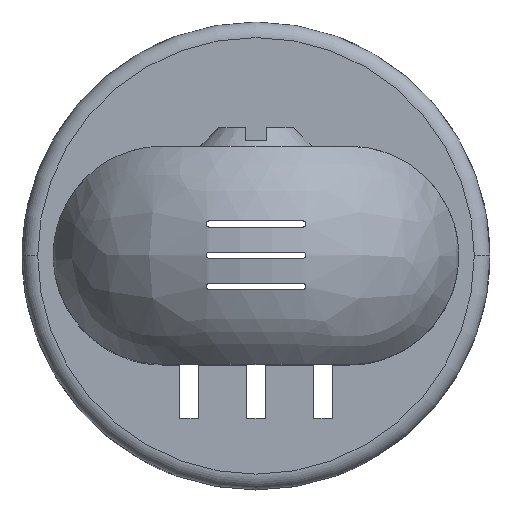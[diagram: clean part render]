
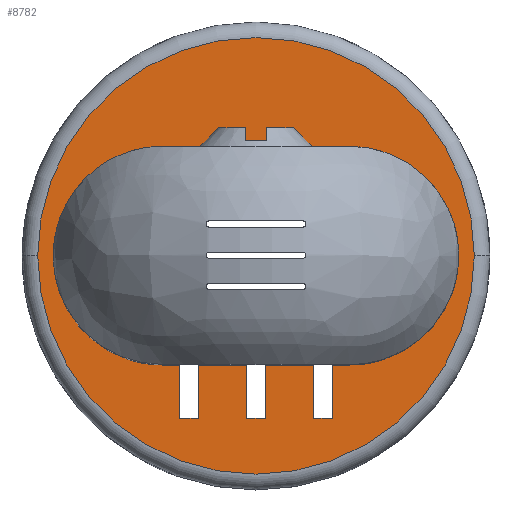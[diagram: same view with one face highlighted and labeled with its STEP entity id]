
A CAD part, top view. The second image highlights one B-rep face of the part: STEP entity #8782.
In plain terms, the highlighted planar face has unit normal (0, 0, 1).
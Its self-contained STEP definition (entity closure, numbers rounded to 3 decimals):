
#328=CARTESIAN_POINT('',(0.,0.,30.));
#329=DIRECTION('',(0.,0.,1.));
#330=DIRECTION('',(1.,0.,0.));
#331=AXIS2_PLACEMENT_3D('',#328,#329,#330);
#337=CARTESIAN_POINT('',(0.,0.,30.));
#338=DIRECTION('',(0.,0.,1.));
#339=DIRECTION('',(-1.,0.,0.));
#340=AXIS2_PLACEMENT_3D('',#337,#338,#339);
#345=CARTESIAN_POINT('',(30.,0.,30.));
#346=DIRECTION('',(0.,0.,-1.));
#347=DIRECTION('',(0.,1.,0.));
#348=AXIS2_PLACEMENT_3D('',#345,#346,#347);
#353=CARTESIAN_POINT('',(-30.,0.,30.));
#354=DIRECTION('',(0.,0.,-1.));
#355=DIRECTION('',(-1.,0.,0.));
#356=AXIS2_PLACEMENT_3D('',#353,#354,#355);
#361=CARTESIAN_POINT('',(-30.,0.,30.));
#362=DIRECTION('',(0.,0.,-1.));
#363=DIRECTION('',(0.,-1.,0.));
#364=AXIS2_PLACEMENT_3D('',#361,#362,#363);
#369=DIRECTION('',(-1.,0.,0.));
#370=VECTOR('',#369,5.5);
#371=CARTESIAN_POINT('',(-24.5,-35.,30.));
#372=LINE('',#371,#370);
#376=DIRECTION('',(0.,-1.,0.));
#377=VECTOR('',#376,17.1);
#378=CARTESIAN_POINT('',(-18.5,-35.,30.));
#379=LINE('',#378,#377);
#383=DIRECTION('',(-1.,0.,0.));
#384=VECTOR('',#383,15.5);
#385=CARTESIAN_POINT('',(-3.,-35.,30.));
#386=LINE('',#385,#384);
#390=DIRECTION('',(0.,-1.,0.));
#391=VECTOR('',#390,17.1);
#392=CARTESIAN_POINT('',(3.,-35.,30.));
#393=LINE('',#392,#391);
#397=DIRECTION('',(-1.,0.,0.));
#398=VECTOR('',#397,15.5);
#399=CARTESIAN_POINT('',(18.5,-35.,30.));
#400=LINE('',#399,#398);
#404=DIRECTION('',(0.,-1.,0.));
#405=VECTOR('',#404,17.1);
#406=CARTESIAN_POINT('',(24.5,-35.,30.));
#407=LINE('',#406,#405);
#411=DIRECTION('',(-1.,0.,0.));
#412=VECTOR('',#411,5.5);
#413=CARTESIAN_POINT('',(30.,-35.,30.));
#414=LINE('',#413,#412);
#2366=DIRECTION('',(1.,0.,0.));
#2367=VECTOR('',#2366,6.);
#2368=CARTESIAN_POINT('',(-24.5,-52.1,30.));
#2369=LINE('',#2368,#2367);
#2373=DIRECTION('',(0.,-1.,0.));
#2374=VECTOR('',#2373,17.1);
#2375=CARTESIAN_POINT('',(-24.5,-35.,30.));
#2376=LINE('',#2375,#2374);
#2692=DIRECTION('',(-1.,0.,0.));
#2693=VECTOR('',#2692,60.);
#2694=CARTESIAN_POINT('',(30.,35.,30.));
#2695=LINE('',#2694,#2693);
#3234=DIRECTION('',(1.,0.,0.));
#3235=VECTOR('',#3234,6.);
#3236=CARTESIAN_POINT('',(18.5,-52.1,30.));
#3237=LINE('',#3236,#3235);
#3241=DIRECTION('',(0.,-1.,0.));
#3242=VECTOR('',#3241,17.1);
#3243=CARTESIAN_POINT('',(18.5,-35.,30.));
#3244=LINE('',#3243,#3242);
#4946=DIRECTION('',(0.,-1.,0.));
#4947=VECTOR('',#4946,17.1);
#4948=CARTESIAN_POINT('',(-3.,-35.,30.));
#4949=LINE('',#4948,#4947);
#4989=DIRECTION('',(1.,0.,0.));
#4990=VECTOR('',#4989,6.);
#4991=CARTESIAN_POINT('',(-3.,-52.1,30.));
#4992=LINE('',#4991,#4990);
#7607=CARTESIAN_POINT('',(30.,35.,30.));
#7608=CARTESIAN_POINT('',(30.,-35.,30.));
#7609=VERTEX_POINT('',#7607);
#7610=VERTEX_POINT('',#7608);
#7611=CARTESIAN_POINT('',(24.5,-35.,30.));
#7612=VERTEX_POINT('',#7611);
#7613=CARTESIAN_POINT('',(24.5,-52.1,30.));
#7614=VERTEX_POINT('',#7613);
#7615=CARTESIAN_POINT('',(18.5,-52.1,30.));
#7616=VERTEX_POINT('',#7615);
#7617=CARTESIAN_POINT('',(18.5,-35.,30.));
#7618=VERTEX_POINT('',#7617);
#7619=CARTESIAN_POINT('',(3.,-35.,30.));
#7620=VERTEX_POINT('',#7619);
#7621=CARTESIAN_POINT('',(3.,-52.1,30.));
#7622=VERTEX_POINT('',#7621);
#7623=CARTESIAN_POINT('',(-3.,-52.1,30.));
#7624=VERTEX_POINT('',#7623);
#7625=CARTESIAN_POINT('',(-3.,-35.,30.));
#7626=VERTEX_POINT('',#7625);
#7627=CARTESIAN_POINT('',(-18.5,-35.,30.));
#7628=VERTEX_POINT('',#7627);
#7629=CARTESIAN_POINT('',(-18.5,-52.1,30.));
#7630=VERTEX_POINT('',#7629);
#7631=CARTESIAN_POINT('',(-24.5,-52.1,30.));
#7632=VERTEX_POINT('',#7631);
#7633=CARTESIAN_POINT('',(-24.5,-35.,30.));
#7634=VERTEX_POINT('',#7633);
#7635=CARTESIAN_POINT('',(-30.,-35.,30.));
#7636=VERTEX_POINT('',#7635);
#7637=CARTESIAN_POINT('',(-65.,0.,30.));
#7638=VERTEX_POINT('',#7637);
#7639=CARTESIAN_POINT('',(-30.,35.,30.));
#7640=VERTEX_POINT('',#7639);
#8528=CARTESIAN_POINT('',(-70.,0.,30.));
#8530=VERTEX_POINT('',#8528);
#8532=CARTESIAN_POINT('',(70.,0.,30.));
#8534=VERTEX_POINT('',#8532);
#8735=CARTESIAN_POINT('',(0.,0.,30.));
#8736=DIRECTION('',(0.,0.,1.));
#8737=DIRECTION('',(1.,0.,0.));
#8738=AXIS2_PLACEMENT_3D('',#8735,#8736,#8737);
#8739=PLANE('',#8738);
#8741=ORIENTED_EDGE('',*,*,#8740,.F.);
#8743=ORIENTED_EDGE('',*,*,#8742,.F.);
#8744=EDGE_LOOP('',(#8741,#8743));
#8745=FACE_OUTER_BOUND('',#8744,.F.);
#8747=ORIENTED_EDGE('',*,*,#8746,.F.);
#8749=ORIENTED_EDGE('',*,*,#8748,.T.);
#8751=ORIENTED_EDGE('',*,*,#8750,.F.);
#8753=ORIENTED_EDGE('',*,*,#8752,.F.);
#8755=ORIENTED_EDGE('',*,*,#8754,.F.);
#8757=ORIENTED_EDGE('',*,*,#8756,.T.);
#8759=ORIENTED_EDGE('',*,*,#8758,.T.);
#8761=ORIENTED_EDGE('',*,*,#8760,.F.);
#8763=ORIENTED_EDGE('',*,*,#8762,.F.);
#8765=ORIENTED_EDGE('',*,*,#8764,.T.);
#8767=ORIENTED_EDGE('',*,*,#8766,.T.);
#8769=ORIENTED_EDGE('',*,*,#8768,.F.);
#8771=ORIENTED_EDGE('',*,*,#8770,.F.);
#8773=ORIENTED_EDGE('',*,*,#8772,.T.);
#8775=ORIENTED_EDGE('',*,*,#8774,.T.);
#8777=ORIENTED_EDGE('',*,*,#8776,.F.);
#8779=ORIENTED_EDGE('',*,*,#8778,.F.);
#8780=EDGE_LOOP('',(#8747,#8749,#8751,#8753,#8755,#8757,#8759,#8761,#8763,#8765,
#8767,#8769,#8771,#8773,#8775,#8777,#8779));
#8781=FACE_BOUND('',#8780,.F.);
#332=CIRCLE('',#331,70.);
#341=CIRCLE('',#340,70.);
#349=CIRCLE('',#348,35.);
#357=CIRCLE('',#356,35.);
#365=CIRCLE('',#364,35.);
#8740=EDGE_CURVE('',#8534,#8530,#332,.T.);
#8742=EDGE_CURVE('',#8530,#8534,#341,.T.);
#8746=EDGE_CURVE('',#7609,#7610,#349,.T.);
#8748=EDGE_CURVE('',#7609,#7640,#2695,.T.);
#8750=EDGE_CURVE('',#7638,#7640,#357,.T.);
#8752=EDGE_CURVE('',#7636,#7638,#365,.T.);
#8754=EDGE_CURVE('',#7634,#7636,#372,.T.);
#8756=EDGE_CURVE('',#7634,#7632,#2376,.T.);
#8758=EDGE_CURVE('',#7632,#7630,#2369,.T.);
#8760=EDGE_CURVE('',#7628,#7630,#379,.T.);
#8762=EDGE_CURVE('',#7626,#7628,#386,.T.);
#8764=EDGE_CURVE('',#7626,#7624,#4949,.T.);
#8766=EDGE_CURVE('',#7624,#7622,#4992,.T.);
#8768=EDGE_CURVE('',#7620,#7622,#393,.T.);
#8770=EDGE_CURVE('',#7618,#7620,#400,.T.);
#8772=EDGE_CURVE('',#7618,#7616,#3244,.T.);
#8774=EDGE_CURVE('',#7616,#7614,#3237,.T.);
#8776=EDGE_CURVE('',#7612,#7614,#407,.T.);
#8778=EDGE_CURVE('',#7610,#7612,#414,.T.);
#8782=ADVANCED_FACE('',(#8745,#8781),#8739,.T.);
